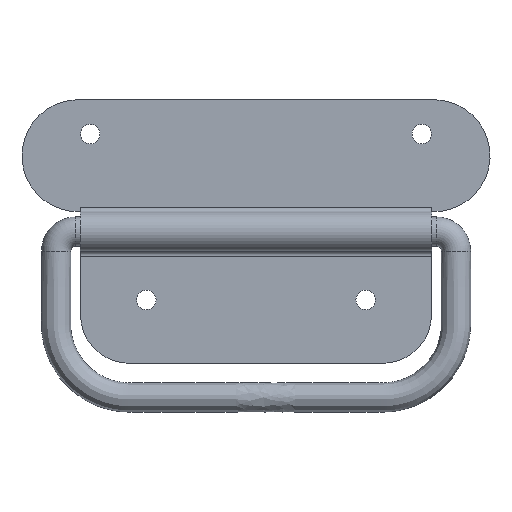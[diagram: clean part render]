
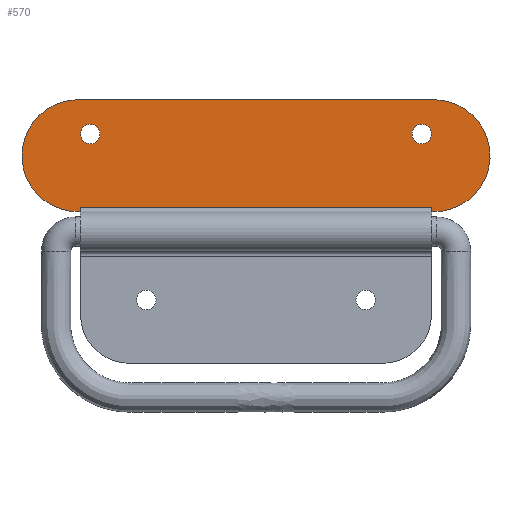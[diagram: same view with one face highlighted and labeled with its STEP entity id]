
A CAD part, left-side view. The second image highlights one B-rep face of the part: STEP entity #570.
In plain terms, the highlighted planar face has unit normal (-1, 0, 0).
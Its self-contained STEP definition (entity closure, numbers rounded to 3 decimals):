
#57=CIRCLE('',#655,2.);
#58=CIRCLE('',#656,2.);
#59=CIRCLE('',#657,11.463);
#60=CIRCLE('',#658,11.463);
#187=ORIENTED_EDGE('',*,*,#295,.T.);
#188=ORIENTED_EDGE('',*,*,#296,.T.);
#189=ORIENTED_EDGE('',*,*,#273,.T.);
#190=ORIENTED_EDGE('',*,*,#297,.T.);
#191=ORIENTED_EDGE('',*,*,#292,.F.);
#192=ORIENTED_EDGE('',*,*,#294,.F.);
#193=ORIENTED_EDGE('',*,*,#287,.F.);
#194=ORIENTED_EDGE('',*,*,#298,.T.);
#273=EDGE_CURVE('',#339,#340,#383,.T.);
#287=EDGE_CURVE('',#347,#348,#395,.T.);
#292=EDGE_CURVE('',#349,#350,#396,.T.);
#294=EDGE_CURVE('',#348,#349,#398,.T.);
#295=EDGE_CURVE('',#351,#351,#57,.T.);
#296=EDGE_CURVE('',#352,#352,#58,.T.);
#297=EDGE_CURVE('',#340,#350,#59,.T.);
#298=EDGE_CURVE('',#347,#339,#60,.T.);
#339=VERTEX_POINT('',#948);
#340=VERTEX_POINT('',#949);
#347=VERTEX_POINT('',#973);
#348=VERTEX_POINT('',#975);
#349=VERTEX_POINT('',#981);
#350=VERTEX_POINT('',#983);
#351=VERTEX_POINT('',#989);
#352=VERTEX_POINT('',#991);
#383=LINE('',#947,#423);
#395=LINE('',#974,#435);
#396=LINE('',#982,#436);
#398=LINE('',#986,#438);
#423=VECTOR('',#765,1000.);
#435=VECTOR('',#789,1000.);
#436=VECTOR('',#800,1000.);
#438=VECTOR('',#804,1000.);
#462=EDGE_LOOP('',(#187));
#463=EDGE_LOOP('',(#188));
#464=EDGE_LOOP('',(#189,#190,#191,#192,#193,#194));
#512=FACE_BOUND('',#462,.T.);
#513=FACE_BOUND('',#463,.T.);
#514=FACE_BOUND('',#464,.T.);
#550=PLANE('',#654);
#570=ADVANCED_FACE('',(#512,#513,#514),#550,.T.);
#654=AXIS2_PLACEMENT_3D('',#987,#805,#806);
#655=AXIS2_PLACEMENT_3D('',#988,#807,#808);
#656=AXIS2_PLACEMENT_3D('',#990,#809,#810);
#657=AXIS2_PLACEMENT_3D('',#992,#811,#812);
#658=AXIS2_PLACEMENT_3D('',#993,#813,#814);
#765=DIRECTION('',(0.,1.,0.));
#789=DIRECTION('',(0.,0.,1.));
#800=DIRECTION('',(0.,0.,-1.));
#804=DIRECTION('',(0.,1.,0.));
#805=DIRECTION('',(-1.,0.,0.));
#806=DIRECTION('',(0.,0.,1.));
#807=DIRECTION('',(1.,0.,0.));
#808=DIRECTION('',(0.,-1.,0.));
#809=DIRECTION('',(1.,0.,0.));
#810=DIRECTION('',(0.,-1.,0.));
#811=DIRECTION('',(-1.,0.,0.));
#812=DIRECTION('',(0.,-1.,0.));
#813=DIRECTION('',(-1.,0.,0.));
#814=DIRECTION('',(0.,1.,0.));
#947=CARTESIAN_POINT('',(3.,-37.075,27.));
#948=CARTESIAN_POINT('',(3.,-37.075,27.));
#949=CARTESIAN_POINT('',(3.,37.075,27.));
#973=CARTESIAN_POINT('',(3.,-36.,4.1));
#974=CARTESIAN_POINT('',(3.,-36.,4.1));
#975=CARTESIAN_POINT('',(3.,-36.,5.));
#981=CARTESIAN_POINT('',(3.,36.,5.));
#982=CARTESIAN_POINT('',(3.,36.,5.));
#983=CARTESIAN_POINT('',(3.,36.,4.1));
#986=CARTESIAN_POINT('',(3.,-36.,5.));
#987=CARTESIAN_POINT('',(3.,-48.5,27.));
#988=CARTESIAN_POINT('',(3.,-34.,20.));
#989=CARTESIAN_POINT('',(3.,-36.,20.));
#990=CARTESIAN_POINT('',(3.,34.,20.));
#991=CARTESIAN_POINT('',(3.,32.,20.));
#992=CARTESIAN_POINT('',(3.,36.538,15.55));
#993=CARTESIAN_POINT('',(3.,-36.538,15.55));
